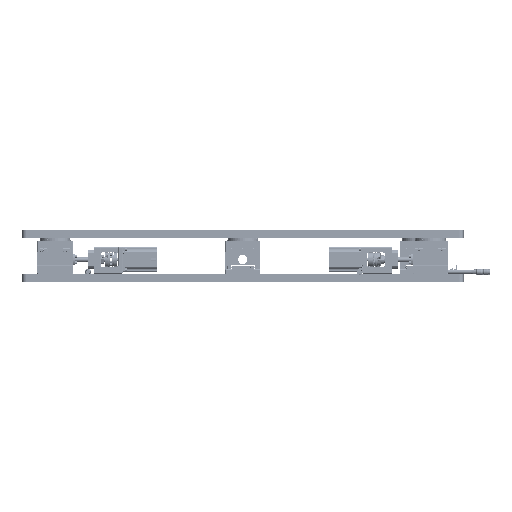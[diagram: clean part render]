
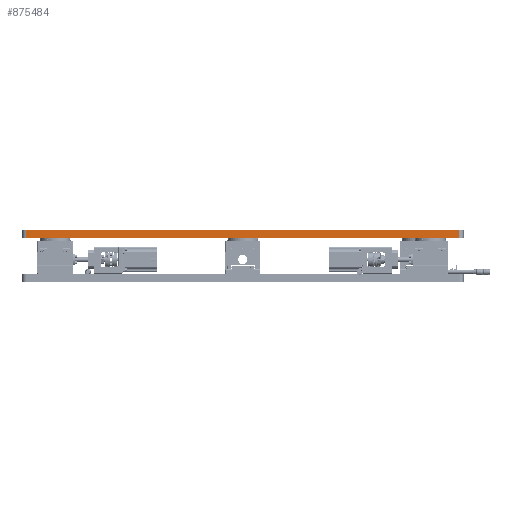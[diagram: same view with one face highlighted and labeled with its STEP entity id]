
A CAD part, left-side view. The second image highlights one B-rep face of the part: STEP entity #875484.
In plain terms, the highlighted planar face has unit normal (-1, 0, 0).
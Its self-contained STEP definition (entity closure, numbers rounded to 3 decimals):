
#53905 = CARTESIAN_POINT ( 'NONE',  ( -514.535, -489.804, 109. ) ) ;
#70931 = DIRECTION ( 'NONE',  ( 0., 0., -1. ) ) ;
#128439 = LINE ( 'NONE', #725173, #961847 ) ;
#135129 = EDGE_CURVE ( 'NONE', #1143397, #1069761, #750789, .T. ) ;
#157259 = CARTESIAN_POINT ( 'NONE',  ( -514.535, -499.804, 110. ) ) ;
#222861 = VERTEX_POINT ( 'NONE', #53905 ) ;
#246985 = DIRECTION ( 'NONE',  ( 0., -1., 0. ) ) ;
#256973 = ORIENTED_EDGE ( 'NONE', *, *, #1047286, .T. ) ;
#282897 = DIRECTION ( 'NONE',  ( 1., 0., 0. ) ) ;
#344464 = CARTESIAN_POINT ( 'NONE',  ( -514.535, -489.804, 110. ) ) ;
#392838 = ORIENTED_EDGE ( 'NONE', *, *, #448889, .T. ) ;
#448889 = EDGE_CURVE ( 'NONE', #222861, #759598, #128439, .T. ) ;
#509519 = AXIS2_PLACEMENT_3D ( 'NONE', #157259, #282897, #70931 ) ;
#580160 = VECTOR ( 'NONE', #960750, 1000. ) ;
#628557 = DIRECTION ( 'NONE',  ( 0., 0., -1. ) ) ;
#687198 = PLANE ( 'NONE',  #509519 ) ;
#702556 = CARTESIAN_POINT ( 'NONE',  ( -514.535, -489.804, 91. ) ) ;
#725173 = CARTESIAN_POINT ( 'NONE',  ( -514.535, -499.804, 109. ) ) ;
#748385 = ORIENTED_EDGE ( 'NONE', *, *, #1275841, .T. ) ;
#748821 = LINE ( 'NONE', #344464, #580160 ) ;
#750789 = LINE ( 'NONE', #1155164, #977548 ) ;
#759598 = VERTEX_POINT ( 'NONE', #822168 ) ;
#784848 = ORIENTED_EDGE ( 'NONE', *, *, #135129, .T. ) ;
#822168 = CARTESIAN_POINT ( 'NONE',  ( -514.535, 490.196, 109. ) ) ;
#875484 = ADVANCED_FACE ( 'NONE', ( #1270874 ), #687198, .F. ) ;
#926930 = CARTESIAN_POINT ( 'NONE',  ( -514.535, 490.196, 110. ) ) ;
#960750 = DIRECTION ( 'NONE',  ( 0., 0., 1. ) ) ;
#961847 = VECTOR ( 'NONE', #1242102, 1000. ) ;
#977548 = VECTOR ( 'NONE', #246985, 1000. ) ;
#989799 = VECTOR ( 'NONE', #628557, 1000. ) ;
#1039344 = LINE ( 'NONE', #926930, #989799 ) ;
#1047286 = EDGE_CURVE ( 'NONE', #1069761, #222861, #748821, .T. ) ;
#1058143 = CARTESIAN_POINT ( 'NONE',  ( -514.535, 490.196, 91. ) ) ;
#1069761 = VERTEX_POINT ( 'NONE', #702556 ) ;
#1143397 = VERTEX_POINT ( 'NONE', #1058143 ) ;
#1155164 = CARTESIAN_POINT ( 'NONE',  ( -514.535, -489.804, 91. ) ) ;
#1242102 = DIRECTION ( 'NONE',  ( 0., 1., 0. ) ) ;
#1270874 = FACE_OUTER_BOUND ( 'NONE', #1299267, .T. ) ;
#1275841 = EDGE_CURVE ( 'NONE', #759598, #1143397, #1039344, .T. ) ;
#1299267 = EDGE_LOOP ( 'NONE', ( #748385, #784848, #256973, #392838 ) ) ;
